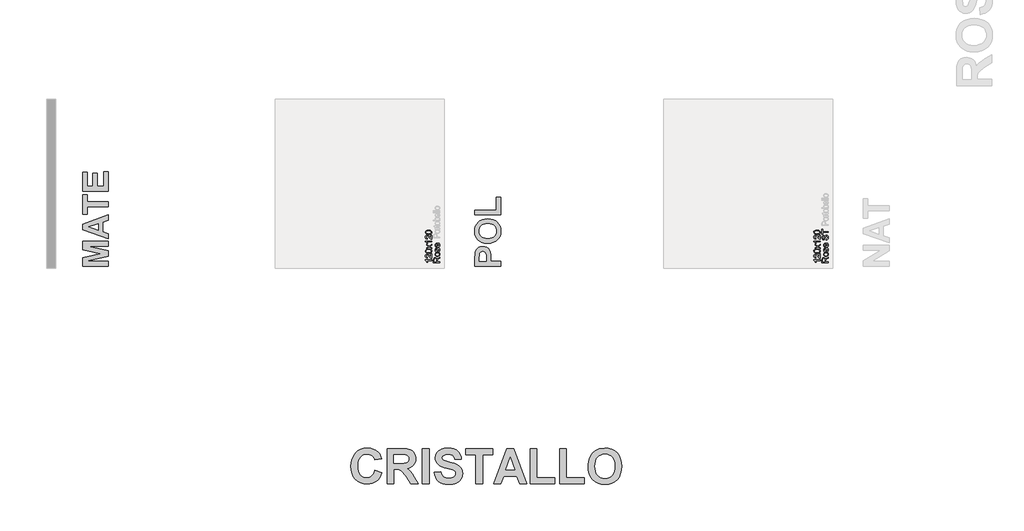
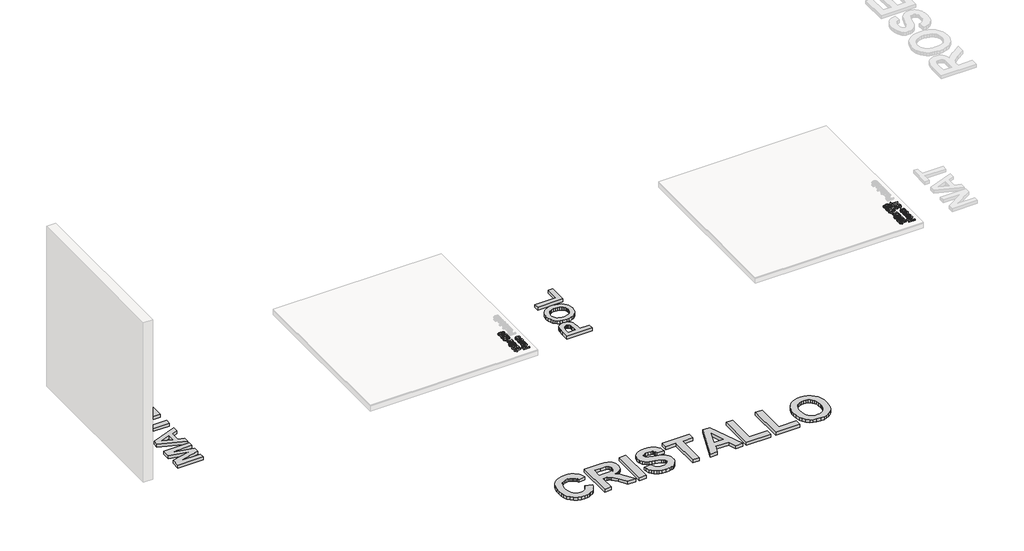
# One storey, part 2 of 14: 7 proxies.
"""IFC4 building model written with IfcOpenShell, lengths in millimetres."""

from ifc_helpers import new_model, si_unit, frame, origin, origin_with_axes, place, context, project, spatial, polyline, outline, extrude, element, save

model = new_model("IFC4")

# Units and contexts
model_context = context("Model", 3, world=origin())
ifc_project = project(units=[si_unit("LENGTHUNIT", "METRE", prefix="MILLI")], contexts=[model_context])

# Site, building, storey
site = spatial("IfcSite", under=ifc_project)
building = spatial("IfcBuilding", under=site)
storey = spatial("IfcBuildingStorey", under=building, Name="PORTOBELLO - SHOWROOM", Elevation=0.0)

# Proxies
placement = place(None, origin())
element("IfcBuildingElementProxy", 1, Name="10mm Arial", ObjectType="10mm Arial", at=placement, inside=storey, context=model_context, shape_type="SweptSolid", body=[
    extrude(outline(polyline([(-10552.2181326, -8570.1378693), (-10652.6744428, -8570.1378693), (-10652.6744428, -8526.8504212), (-10649.9643788, -8506.7518015), (-10640.3749214, -8495.7643926), (-10625.181395, -8491.656377), (-10615.2853694, -8493.3578312), (-10607.0816009, -8498.4621939), (-10601.0667302, -8507.1227492), (-10597.7373982, -8519.4927813), (-10592.3663211, -8512.3558706), (-10579.4414003, -8502.1778021), (-10552.2181326, -8485.4269086), (-10552.2181326, -8500.019561), (-10573.0402536, -8513.0916346), (-10586.8235657, -8522.5339391), (-10593.335077, -8529.1680778), (-10595.7263099, -8535.1400288), (-10596.1677683, -8542.4240923), (-10596.1677683, -8557.5808305), (-10552.2181326, -8557.5808305), (-10552.2181326, -8570.1378693)]), holes=[polyline([(-10608.7248071, -8557.5808305), (-10608.7248071, -8529.4746461), (-10610.5029034, -8515.139511), (-10616.1928116, -8506.9970562), (-10624.7154112, -8504.2134158), (-10635.7763965, -8509.5231792), (-10640.117404, -8526.3108609), (-10640.117404, -8557.5808305), (-10608.7248071, -8557.5808305)])]), frame((0.0, 0.0, 17.0), z_axis=(0.0, 0.0, 1.0), x_axis=(1.0, 0.0, 0.0)), (0.0, 0.0, 1.0), 20.0),
    extrude(outline(polyline([(-10589.104434, -8474.3904487), (-10606.8915285, -8471.6742533), (-10619.393385, -8463.5256671), (-10625.5186202, -8453.4579632), (-10627.5603653, -8441.4036965), (-10625.0740961, -8428.2120613), (-10617.6152887, -8417.6753078), (-10605.7725541, -8410.7683233), (-10590.1345036, -8408.4659952), (-10567.7918038, -8412.5372226), (-10555.1489259, -8424.3952856), (-10550.6485028, -8441.4036965), (-10553.1255749, -8454.7547472), (-10560.5567912, -8465.2792379), (-10572.6478461, -8472.112646), (-10589.104434, -8474.3904487)]), holes=[polyline([(-10589.1289595, -8461.8334099), (-10577.7644715, -8460.380276), (-10569.668002, -8456.0208744), (-10564.8211567, -8449.4603122), (-10563.2055416, -8441.4036965), (-10564.8303537, -8433.383869), (-10569.7047902, -8426.8355695), (-10577.9085586, -8422.4761678), (-10589.521367, -8421.0230339), (-10600.5547611, -8422.4853649), (-10608.5408661, -8426.8723577), (-10613.3877114, -8433.4298542), (-10615.0033265, -8441.4036965), (-10613.3938428, -8449.4603122), (-10608.5653916, -8456.0208744), (-10600.4873161, -8460.380276), (-10589.1289595, -8461.8334099)])]), frame((0.0, 0.0, 17.0), z_axis=(0.0, 0.0, 1.0), x_axis=(1.0, 0.0, 0.0)), (0.0, 0.0, 1.0), 20.0),
    extrude(outline(polyline([(-10574.1929505, -8399.0482161), (-10575.7625803, -8386.4911773), (-10566.4429031, -8380.6786418), (-10563.2055416, -8367.3613136), (-10566.173123, -8354.5590201), (-10573.1383554, -8350.3896909), (-10578.7792127, -8354.5835456), (-10582.3599308, -8367.5084664), (-10588.5035601, -8386.4176009), (-10595.677259, -8394.6704203), (-10605.8062766, -8397.4785862), (-10615.162742, -8395.2222433), (-10622.3119155, -8389.0663513), (-10626.0275236, -8381.083312), (-10627.5603653, -8370.2798441), (-10625.0955559, -8355.0004785), (-10618.424629, -8345.2883939), (-10607.1551773, -8340.9719118), (-10605.5855474, -8353.5289505), (-10612.5139917, -8358.2501028), (-10615.0033265, -8369.2988254), (-10612.6243563, -8381.3163039), (-10607.0816009, -8384.9215475), (-10603.4273064, -8383.425494), (-10600.6559287, -8378.7411299), (-10597.9826528, -8367.9253993), (-10592.0720155, -8349.4945113), (-10585.3765631, -8340.9351236), (-10574.4627306, -8337.8326521), (-10562.4452521, -8341.4746838), (-10553.7264488, -8351.9838462), (-10550.6485028, -8367.5329918), (-10552.1322935, -8380.1942638), (-10556.5836657, -8389.4342333), (-10563.9535683, -8395.6023881), (-10574.1929505, -8399.0482161)])), frame((0.0, 0.0, 17.0), z_axis=(0.0, 0.0, 1.0), x_axis=(1.0, 0.0, 0.0)), (0.0, 0.0, 1.0), 20.0),
    extrude(outline(polyline([(-10574.1929505, -8272.0553513), (-10572.6233206, -8259.7435672), (-10563.346563, -8264.179611), (-10556.4119874, -8271.2582737), (-10552.089374, -8280.8201399), (-10550.6485028, -8292.705794), (-10553.134772, -8307.4394679), (-10560.5935794, -8318.7763647), (-10572.5405472, -8326.0052459), (-10588.4912974, -8328.414873), (-10604.9785421, -8325.9807205), (-10617.3087203, -8318.6782629), (-10624.997454, -8307.4946502), (-10627.5603653, -8293.4170325), (-10625.0035854, -8279.7778076), (-10617.3332458, -8268.8793035), (-10605.0275931, -8261.7331957), (-10588.5648738, -8259.3511598), (-10585.1803594, -8259.4247362), (-10585.1803594, -8315.8578342), (-10575.7809744, -8313.6842648), (-10568.8709243, -8308.6350844), (-10564.6218873, -8301.3479552), (-10563.2055416, -8292.4605393), (-10565.8297665, -8280.1487552), (-10574.1929505, -8272.0553513)]), holes=[polyline([(-10597.7373982, -8315.8578342), (-10597.7373982, -8271.9081985), (-10609.1172146, -8276.9359192), (-10613.5317985, -8284.2567709), (-10615.0033265, -8293.4660835), (-10610.3066997, -8308.92939), (-10604.8160609, -8313.7946294), (-10597.7373982, -8315.8578342)])]), frame((0.0, 0.0, 17.0), z_axis=(0.0, 0.0, 1.0), x_axis=(1.0, 0.0, 0.0)), (0.0, 0.0, 1.0), 20.0),
])
element("IfcBuildingElementProxy", 2, Name="10mm Arial", ObjectType="10mm Arial", at=placement, inside=storey, context=model_context, shape_type="SweptSolid", body=[
    extrude(outline(polyline([(-10682.2181326, -8527.7578635), (-10682.2181326, -8540.3149022), (-10760.5034212, -8540.3149022), (-10752.0298726, -8552.2097534), (-10745.6900395, -8565.4289798), (-10757.5603653, -8565.4289798), (-10769.3080636, -8547.0226173), (-10782.6744428, -8535.8512674), (-10782.6744428, -8527.7578635), (-10682.2181326, -8527.7578635)])), frame((0.0, 0.0, 17.0), z_axis=(0.0, 0.0, 1.0), x_axis=(1.0, 0.0, 0.0)), (0.0, 0.0, 1.0), 20.0),
    extrude(outline(polyline([(-10694.7751714, -8433.5800727), (-10682.2181326, -8433.5800727), (-10682.2181326, -8499.5045262), (-10690.8756223, -8498.1556256), (-10704.2052132, -8490.5159428), (-10718.7610775, -8474.7828562), (-10739.6813003, -8453.1146066), (-10753.9060708, -8447.7067413), (-10765.4207772, -8452.820301), (-10770.117404, -8466.1744175), (-10765.5311418, -8480.0926196), (-10752.8514757, -8485.3778576), (-10754.4211056, -8497.9348964), (-10766.5673428, -8494.8906729), (-10775.4394302, -8488.3086508), (-10780.8656897, -8478.5321868), (-10782.6744428, -8465.9046373), (-10780.6633546, -8453.1851174), (-10774.6300898, -8443.4270474), (-10765.616981, -8437.2190388), (-10754.6663602, -8435.1497025), (-10742.7592463, -8437.38152), (-10730.4474622, -8444.8004735), (-10713.2428476, -8462.7899031), (-10701.1640554, -8477.2354028), (-10694.7751714, -8482.9007855), (-10694.7751714, -8433.5800727)])), frame((0.0, 0.0, 17.0), z_axis=(0.0, 0.0, 1.0), x_axis=(1.0, 0.0, 0.0)), (0.0, 0.0, 1.0), 20.0),
    extrude(outline(polyline([(-10731.6369473, -8421.0230339), (-10760.5402094, -8417.3319512), (-10777.2052638, -8406.3690678), (-10782.6744428, -8388.0608072), (-10779.4370812, -8373.3945783), (-10770.1051413, -8363.2655607), (-10755.2427087, -8357.3794488), (-10731.6369473, -8355.0985804), (-10702.8563126, -8358.7528749), (-10686.15447, -8369.6789701), (-10682.0249946, -8377.9103298), (-10680.6485028, -8388.0608072), (-10683.0397358, -8401.1083553), (-10690.2134347, -8411.0166437), (-10707.2034515, -8418.5214364), (-10731.6369473, -8421.0230339)]), holes=[polyline([(-10731.6614728, -8408.4659952), (-10711.9092753, -8406.9944672), (-10700.4773423, -8402.5798832), (-10695.0234918, -8396.0070583), (-10693.2055416, -8388.0608072), (-10695.0296231, -8380.1145561), (-10700.5018678, -8373.5417311), (-10711.9399322, -8369.1271471), (-10731.6614728, -8367.6556192), (-10750.9691462, -8369.0780962), (-10762.489984, -8373.3455274), (-10768.210549, -8379.9060896), (-10770.117404, -8388.20796), (-10768.4374096, -8396.0683719), (-10763.3974263, -8402.3836795), (-10751.1592185, -8406.9454162), (-10731.6614728, -8408.4659952)])]), frame((0.0, 0.0, 17.0), z_axis=(0.0, 0.0, 1.0), x_axis=(1.0, 0.0, 0.0)), (0.0, 0.0, 1.0), 20.0),
    extrude(outline(polyline([(-10682.2181326, -8348.820061), (-10719.3251632, -8321.9892008), (-10755.9907354, -8347.2504312), (-10755.9907354, -8332.1917948), (-10738.3078742, -8320.0026381), (-10729.9937411, -8314.2882044), (-10736.8118207, -8309.3340602), (-10755.9907354, -8295.4526462), (-10755.9907354, -8280.344959), (-10719.3006378, -8306.8815136), (-10682.2181326, -8281.3259776), (-10682.2181326, -8296.4091394), (-10704.536307, -8311.8111323), (-10708.6320599, -8314.6070355), (-10682.2181326, -8333.7123737), (-10682.2181326, -8348.820061)])), frame((0.0, 0.0, 17.0), z_axis=(0.0, 0.0, 1.0), x_axis=(1.0, 0.0, 0.0)), (0.0, 0.0, 1.0), 20.0),
    extrude(outline(polyline([(-10682.2181326, -8226.388933), (-10682.2181326, -8238.9459718), (-10760.5034212, -8238.9459718), (-10752.0298726, -8250.840823), (-10745.6900395, -8264.0600493), (-10757.5603653, -8264.0600493), (-10769.3080636, -8245.6536868), (-10782.6744428, -8234.4823369), (-10782.6744428, -8226.388933), (-10682.2181326, -8226.388933)])), frame((0.0, 0.0, 17.0), z_axis=(0.0, 0.0, 1.0), x_axis=(1.0, 0.0, 0.0)), (0.0, 0.0, 1.0), 20.0),
    extrude(outline(polyline([(-10694.7751714, -8132.2111422), (-10682.2181326, -8132.2111422), (-10682.2181326, -8198.1355958), (-10690.8756223, -8196.7866951), (-10704.2052132, -8189.1470124), (-10718.7610775, -8173.4139257), (-10739.6813003, -8151.7456762), (-10753.9060708, -8146.3378109), (-10765.4207772, -8151.4513706), (-10770.117404, -8164.805487), (-10765.5311418, -8178.7236892), (-10752.8514757, -8184.0089272), (-10754.4211056, -8196.5659659), (-10766.5673428, -8193.5217424), (-10775.4394302, -8186.9397204), (-10780.8656897, -8177.1632564), (-10782.6744428, -8164.5357069), (-10780.6633546, -8151.8161869), (-10774.6300898, -8142.058117), (-10765.616981, -8135.8501083), (-10754.6663602, -8133.7807721), (-10742.7592463, -8136.0125895), (-10730.4474622, -8143.4315431), (-10713.2428476, -8161.4209727), (-10701.1640554, -8175.8664723), (-10694.7751714, -8181.5318551), (-10694.7751714, -8132.2111422)])), frame((0.0, 0.0, 17.0), z_axis=(0.0, 0.0, 1.0), x_axis=(1.0, 0.0, 0.0)), (0.0, 0.0, 1.0), 20.0),
    extrude(outline(polyline([(-10731.6369473, -8119.6541035), (-10760.5402094, -8115.9630208), (-10777.2052638, -8105.0001373), (-10782.6744428, -8086.6918767), (-10779.4370812, -8072.0256478), (-10770.1051413, -8061.8966302), (-10755.2427087, -8056.0105183), (-10731.6369473, -8053.7296499), (-10702.8563126, -8057.3839444), (-10686.15447, -8068.3100397), (-10682.0249946, -8076.5413993), (-10680.6485028, -8086.6918767), (-10683.0397358, -8099.7394248), (-10690.2134347, -8109.6477132), (-10707.2034515, -8117.1525059), (-10731.6369473, -8119.6541035)]), holes=[polyline([(-10731.6614728, -8107.0970647), (-10711.9092753, -8105.6255367), (-10700.4773423, -8101.2109528), (-10695.0234918, -8094.6381278), (-10693.2055416, -8086.6918767), (-10695.0296231, -8078.7456256), (-10700.5018678, -8072.1728006), (-10711.9399322, -8067.7582167), (-10731.6614728, -8066.2866887), (-10750.9691462, -8067.7091658), (-10762.489984, -8071.9765969), (-10768.210549, -8078.5371592), (-10770.117404, -8086.8390295), (-10768.4374096, -8094.6994415), (-10763.3974263, -8101.0147491), (-10751.1592185, -8105.5764858), (-10731.6614728, -8107.0970647)])]), frame((0.0, 0.0, 17.0), z_axis=(0.0, 0.0, 1.0), x_axis=(1.0, 0.0, 0.0)), (0.0, 0.0, 1.0), 20.0),
])
element("IfcBuildingElementProxy", 3, Name="10mm Arial", ObjectType="10mm Arial", at=placement, inside=storey, context=model_context, shape_type="SweptSolid", body=[
    extrude(outline(polyline([(-4352.1931166, -8570.1378693), (-4452.6494267, -8570.1378693), (-4452.6494267, -8526.8504212), (-4449.9393627, -8506.7518015), (-4440.3499053, -8495.7643926), (-4425.1563789, -8491.656377), (-4415.2603533, -8493.3578312), (-4407.0565848, -8498.4621939), (-4401.0417142, -8507.1227492), (-4397.7123821, -8519.4927813), (-4392.341305, -8512.3558706), (-4379.4163842, -8502.1778021), (-4352.1931166, -8485.4269086), (-4352.1931166, -8500.019561), (-4373.0152375, -8513.0916346), (-4386.7985496, -8522.5339391), (-4393.3100609, -8529.1680778), (-4395.7012939, -8535.1400288), (-4396.1427523, -8542.4240923), (-4396.1427523, -8557.5808305), (-4352.1931166, -8557.5808305), (-4352.1931166, -8570.1378693)]), holes=[polyline([(-4408.699791, -8557.5808305), (-4408.699791, -8529.4746461), (-4410.4778873, -8515.139511), (-4416.1677955, -8506.9970562), (-4424.6903951, -8504.2134158), (-4435.7513804, -8509.5231792), (-4440.0923879, -8526.3108609), (-4440.0923879, -8557.5808305), (-4408.699791, -8557.5808305)])]), frame((0.0, 0.0, 17.0), z_axis=(0.0, 0.0, 1.0), x_axis=(1.0, 0.0, 0.0)), (0.0, 0.0, 1.0), 20.0),
    extrude(outline(polyline([(-4389.0794179, -8474.3904487), (-4406.8665124, -8471.6742533), (-4419.3683689, -8463.5256671), (-4425.4936041, -8453.4579632), (-4427.5353492, -8441.4036965), (-4425.04908, -8428.2120613), (-4417.5902726, -8417.6753078), (-4405.747538, -8410.7683233), (-4390.1094875, -8408.4659952), (-4367.7667877, -8412.5372226), (-4355.1239098, -8424.3952856), (-4350.6234867, -8441.4036965), (-4353.1005588, -8454.7547472), (-4360.5317751, -8465.2792379), (-4372.62283, -8472.112646), (-4389.0794179, -8474.3904487)]), holes=[polyline([(-4389.1039434, -8461.8334099), (-4377.7394554, -8460.380276), (-4369.6429859, -8456.0208744), (-4364.7961406, -8449.4603122), (-4363.1805255, -8441.4036965), (-4364.8053376, -8433.383869), (-4369.6797741, -8426.8355695), (-4377.8835426, -8422.4761678), (-4389.4963509, -8421.0230339), (-4400.529745, -8422.4853649), (-4408.51585, -8426.8723577), (-4413.3626953, -8433.4298542), (-4414.9783104, -8441.4036965), (-4413.3688267, -8449.4603122), (-4408.5403755, -8456.0208744), (-4400.4623, -8460.380276), (-4389.1039434, -8461.8334099)])]), frame((0.0, 0.0, 17.0), z_axis=(0.0, 0.0, 1.0), x_axis=(1.0, 0.0, 0.0)), (0.0, 0.0, 1.0), 20.0),
    extrude(outline(polyline([(-4374.1679344, -8399.0482161), (-4375.7375643, -8386.4911773), (-4366.417887, -8380.6786418), (-4363.1805255, -8367.3613136), (-4366.1481069, -8354.5590201), (-4373.1133394, -8350.3896909), (-4378.7541966, -8354.5835456), (-4382.3349147, -8367.5084664), (-4388.478544, -8386.4176009), (-4395.6522429, -8394.6704203), (-4405.7812605, -8397.4785862), (-4415.1377259, -8395.2222433), (-4422.2868994, -8389.0663513), (-4426.0025075, -8381.083312), (-4427.5353492, -8370.2798441), (-4425.0705398, -8355.0004785), (-4418.399613, -8345.2883939), (-4407.1301612, -8340.9719118), (-4405.5605313, -8353.5289505), (-4412.4889756, -8358.2501028), (-4414.9783104, -8369.2988254), (-4412.5993402, -8381.3163039), (-4407.0565848, -8384.9215475), (-4403.4022903, -8383.425494), (-4400.6309126, -8378.7411299), (-4397.9576368, -8367.9253993), (-4392.0469994, -8349.4945113), (-4385.3515471, -8340.9351236), (-4374.4377145, -8337.8326521), (-4362.420236, -8341.4746838), (-4353.7014327, -8351.9838462), (-4350.6234867, -8367.5329918), (-4352.1072774, -8380.1942638), (-4356.5586496, -8389.4342333), (-4363.9285522, -8395.6023881), (-4374.1679344, -8399.0482161)])), frame((0.0, 0.0, 17.0), z_axis=(0.0, 0.0, 1.0), x_axis=(1.0, 0.0, 0.0)), (0.0, 0.0, 1.0), 20.0),
    extrude(outline(polyline([(-4374.1679344, -8272.0553513), (-4372.5983046, -8259.7435672), (-4363.3215469, -8264.179611), (-4356.3869713, -8271.2582737), (-4352.0643579, -8280.8201399), (-4350.6234867, -8292.705794), (-4353.1097559, -8307.4394679), (-4360.5685633, -8318.7763647), (-4372.5155311, -8326.0052459), (-4388.4662813, -8328.414873), (-4404.953526, -8325.9807205), (-4417.2837042, -8318.6782629), (-4424.9724379, -8307.4946502), (-4427.5353492, -8293.4170325), (-4424.9785693, -8279.7778076), (-4417.3082297, -8268.8793035), (-4405.002577, -8261.7331957), (-4388.5398577, -8259.3511598), (-4385.1553433, -8259.4247362), (-4385.1553433, -8315.8578342), (-4375.7559584, -8313.6842648), (-4368.8459082, -8308.6350844), (-4364.5968712, -8301.3479552), (-4363.1805255, -8292.4605393), (-4365.8047504, -8280.1487552), (-4374.1679344, -8272.0553513)]), holes=[polyline([(-4397.7123821, -8315.8578342), (-4397.7123821, -8271.9081985), (-4409.0921985, -8276.9359192), (-4413.5067824, -8284.2567709), (-4414.9783104, -8293.4660835), (-4410.2816836, -8308.92939), (-4404.7910448, -8313.7946294), (-4397.7123821, -8315.8578342)])]), frame((0.0, 0.0, 17.0), z_axis=(0.0, 0.0, 1.0), x_axis=(1.0, 0.0, 0.0)), (0.0, 0.0, 1.0), 20.0),
    extrude(outline(polyline([(-4386.7249732, -8210.6926346), (-4386.7249732, -8198.1355958), (-4374.1556717, -8194.0888938), (-4366.2094206, -8184.2051309), (-4363.1805255, -8169.1464946), (-4365.4736566, -8156.0253701), (-4371.7767014, -8147.5518214), (-4380.2011991, -8144.768181), (-4388.0370856, -8146.8528457), (-4393.7392566, -8155.3877079), (-4398.5339852, -8173.6714431), (-4404.7266655, -8193.3531298), (-4414.0708682, -8204.0339704), (-4426.5543305, -8207.5533749), (-4440.7668383, -8203.2001046), (-4450.797754, -8190.4836503), (-4454.2190566, -8171.8688213), (-4450.6383385, -8152.0031936), (-4440.1169134, -8138.7594418), (-4424.3960895, -8133.7807721), (-4424.3960895, -8146.3378109), (-4431.8886195, -8148.6432047), (-4437.2964848, -8153.4501961), (-4441.6620178, -8171.378312), (-4437.3455357, -8189.3554788), (-4426.9222125, -8194.9963361), (-4418.215672, -8190.9986851), (-4411.2013886, -8170.4953952), (-4404.8983437, -8148.2753227), (-4394.7202752, -8136.1229541), (-4380.5200302, -8132.2111422), (-4365.4981821, -8136.7115653), (-4354.5352986, -8149.6610116), (-4350.6234867, -8168.6559852), (-4354.8418669, -8191.0845242), (-4367.5460585, -8205.2725065), (-4386.7249732, -8210.6926346)])), frame((0.0, 0.0, 17.0), z_axis=(0.0, 0.0, 1.0), x_axis=(1.0, 0.0, 0.0)), (0.0, 0.0, 1.0), 20.0),
    extrude(outline(polyline([(-4352.1931166, -8088.2615066), (-4440.0923879, -8088.2615066), (-4440.0923879, -8121.2237333), (-4452.6494267, -8121.2237333), (-4452.6494267, -8042.742241), (-4440.0923879, -8042.742241), (-4440.0923879, -8075.7044678), (-4352.1931166, -8075.7044678), (-4352.1931166, -8088.2615066)])), frame((0.0, 0.0, 17.0), z_axis=(0.0, 0.0, 1.0), x_axis=(1.0, 0.0, 0.0)), (0.0, 0.0, 1.0), 20.0),
])
element("IfcBuildingElementProxy", 4, Name="10mm Arial", ObjectType="10mm Arial", at=placement, inside=storey, context=model_context, shape_type="SweptSolid", body=[
    extrude(outline(polyline([(-4482.1931166, -8527.7578635), (-4482.1931166, -8540.3149022), (-4560.4784051, -8540.3149022), (-4552.0048565, -8552.2097534), (-4545.6650235, -8565.4289798), (-4557.5353492, -8565.4289798), (-4569.2830476, -8547.0226173), (-4582.6494267, -8535.8512674), (-4582.6494267, -8527.7578635), (-4482.1931166, -8527.7578635)])), frame((0.0, 0.0, 17.0), z_axis=(0.0, 0.0, 1.0), x_axis=(1.0, 0.0, 0.0)), (0.0, 0.0, 1.0), 20.0),
    extrude(outline(polyline([(-4494.7501553, -8433.5800727), (-4482.1931166, -8433.5800727), (-4482.1931166, -8499.5045262), (-4490.8506062, -8498.1556256), (-4504.1801971, -8490.5159428), (-4518.7360614, -8474.7828562), (-4539.6562842, -8453.1146066), (-4553.8810547, -8447.7067413), (-4565.3957611, -8452.820301), (-4570.0923879, -8466.1744175), (-4565.5061257, -8480.0926196), (-4552.8264596, -8485.3778576), (-4554.3960895, -8497.9348964), (-4566.5423267, -8494.8906729), (-4575.4144141, -8488.3086508), (-4580.8406736, -8478.5321868), (-4582.6494267, -8465.9046373), (-4580.6383385, -8453.1851174), (-4574.6050738, -8443.4270474), (-4565.5919649, -8437.2190388), (-4554.6413441, -8435.1497025), (-4542.7342302, -8437.38152), (-4530.4224461, -8444.8004735), (-4513.2178315, -8462.7899031), (-4501.1390393, -8477.2354028), (-4494.7501553, -8482.9007855), (-4494.7501553, -8433.5800727)])), frame((0.0, 0.0, 17.0), z_axis=(0.0, 0.0, 1.0), x_axis=(1.0, 0.0, 0.0)), (0.0, 0.0, 1.0), 20.0),
    extrude(outline(polyline([(-4531.6119313, -8421.0230339), (-4560.5151933, -8417.3319512), (-4577.1802477, -8406.3690678), (-4582.6494267, -8388.0608072), (-4579.4120652, -8373.3945783), (-4570.0801252, -8363.2655607), (-4555.2176926, -8357.3794488), (-4531.6119313, -8355.0985804), (-4502.8312965, -8358.7528749), (-4486.1294539, -8369.6789701), (-4481.9999785, -8377.9103298), (-4480.6234867, -8388.0608072), (-4483.0147197, -8401.1083553), (-4490.1884186, -8411.0166437), (-4507.1784354, -8418.5214364), (-4531.6119313, -8421.0230339)]), holes=[polyline([(-4531.6364567, -8408.4659952), (-4511.8842593, -8406.9944672), (-4500.4523263, -8402.5798832), (-4494.9984757, -8396.0070583), (-4493.1805255, -8388.0608072), (-4495.004607, -8380.1145561), (-4500.4768517, -8373.5417311), (-4511.9149161, -8369.1271471), (-4531.6364567, -8367.6556192), (-4550.9441301, -8369.0780962), (-4562.4649679, -8373.3455274), (-4568.1855329, -8379.9060896), (-4570.0923879, -8388.20796), (-4568.4123935, -8396.0683719), (-4563.3724102, -8402.3836795), (-4551.1342025, -8406.9454162), (-4531.6364567, -8408.4659952)])]), frame((0.0, 0.0, 17.0), z_axis=(0.0, 0.0, 1.0), x_axis=(1.0, 0.0, 0.0)), (0.0, 0.0, 1.0), 20.0),
    extrude(outline(polyline([(-4482.1931166, -8348.820061), (-4519.3001471, -8321.9892008), (-4555.9657193, -8347.2504312), (-4555.9657193, -8332.1917948), (-4538.2828581, -8320.0026381), (-4529.968725, -8314.2882044), (-4536.7868047, -8309.3340602), (-4555.9657193, -8295.4526462), (-4555.9657193, -8280.344959), (-4519.2756217, -8306.8815136), (-4482.1931166, -8281.3259776), (-4482.1931166, -8296.4091394), (-4504.5112909, -8311.8111323), (-4508.6070438, -8314.6070355), (-4482.1931166, -8333.7123737), (-4482.1931166, -8348.820061)])), frame((0.0, 0.0, 17.0), z_axis=(0.0, 0.0, 1.0), x_axis=(1.0, 0.0, 0.0)), (0.0, 0.0, 1.0), 20.0),
    extrude(outline(polyline([(-4482.1931166, -8226.388933), (-4482.1931166, -8238.9459718), (-4560.4784051, -8238.9459718), (-4552.0048565, -8250.840823), (-4545.6650235, -8264.0600493), (-4557.5353492, -8264.0600493), (-4569.2830476, -8245.6536868), (-4582.6494267, -8234.4823369), (-4582.6494267, -8226.388933), (-4482.1931166, -8226.388933)])), frame((0.0, 0.0, 17.0), z_axis=(0.0, 0.0, 1.0), x_axis=(1.0, 0.0, 0.0)), (0.0, 0.0, 1.0), 20.0),
    extrude(outline(polyline([(-4494.7501553, -8132.2111422), (-4482.1931166, -8132.2111422), (-4482.1931166, -8198.1355958), (-4490.8506062, -8196.7866951), (-4504.1801971, -8189.1470124), (-4518.7360614, -8173.4139257), (-4539.6562842, -8151.7456762), (-4553.8810547, -8146.3378109), (-4565.3957611, -8151.4513706), (-4570.0923879, -8164.805487), (-4565.5061257, -8178.7236892), (-4552.8264596, -8184.0089272), (-4554.3960895, -8196.5659659), (-4566.5423267, -8193.5217424), (-4575.4144141, -8186.9397204), (-4580.8406736, -8177.1632564), (-4582.6494267, -8164.5357069), (-4580.6383385, -8151.8161869), (-4574.6050738, -8142.058117), (-4565.5919649, -8135.8501083), (-4554.6413441, -8133.7807721), (-4542.7342302, -8136.0125895), (-4530.4224461, -8143.4315431), (-4513.2178315, -8161.4209727), (-4501.1390393, -8175.8664723), (-4494.7501553, -8181.5318551), (-4494.7501553, -8132.2111422)])), frame((0.0, 0.0, 17.0), z_axis=(0.0, 0.0, 1.0), x_axis=(1.0, 0.0, 0.0)), (0.0, 0.0, 1.0), 20.0),
    extrude(outline(polyline([(-4531.6119313, -8119.6541035), (-4560.5151933, -8115.9630208), (-4577.1802477, -8105.0001373), (-4582.6494267, -8086.6918767), (-4579.4120652, -8072.0256478), (-4570.0801252, -8061.8966302), (-4555.2176926, -8056.0105183), (-4531.6119313, -8053.7296499), (-4502.8312965, -8057.3839444), (-4486.1294539, -8068.3100397), (-4481.9999785, -8076.5413993), (-4480.6234867, -8086.6918767), (-4483.0147197, -8099.7394248), (-4490.1884186, -8109.6477132), (-4507.1784354, -8117.1525059), (-4531.6119313, -8119.6541035)]), holes=[polyline([(-4531.6364567, -8107.0970647), (-4511.8842593, -8105.6255367), (-4500.4523263, -8101.2109528), (-4494.9984757, -8094.6381278), (-4493.1805255, -8086.6918767), (-4495.004607, -8078.7456256), (-4500.4768517, -8072.1728006), (-4511.9149161, -8067.7582167), (-4531.6364567, -8066.2866887), (-4550.9441301, -8067.7091658), (-4562.4649679, -8071.9765969), (-4568.1855329, -8078.5371592), (-4570.0923879, -8086.8390295), (-4568.4123935, -8094.6994415), (-4563.3724102, -8101.0147491), (-4551.1342025, -8105.5764858), (-4531.6364567, -8107.0970647)])]), frame((0.0, 0.0, 17.0), z_axis=(0.0, 0.0, 1.0), x_axis=(1.0, 0.0, 0.0)), (0.0, 0.0, 1.0), 20.0),
])
element("IfcBuildingElementProxy", 5, Name="400mm Arial", ObjectType="400mm Arial", at=placement, inside=storey, context=model_context, shape_type="SweptSolid", body=[
    extrude(outline(polyline([(-15842.0326912, -8625.7487638), (-16250.1364512, -8625.7487638), (-16250.1364512, -8492.7506635), (-15971.7918728, -8428.1747213), (-16250.1364512, -8363.8012115), (-16250.1364512, -8230.6006788), (-15842.0326912, -8230.6006788), (-15842.0326912, -8308.3347283), (-16163.2929427, -8311.573647), (-15842.0326912, -8382.6274267), (-15842.0326912, -8473.5195835), (-16163.2929427, -8544.7757956), (-15842.0326912, -8548.0147143), (-15842.0326912, -8625.7487638)])), origin_with_axes(), (0.0, 0.0, 1.0), 50.0),
    extrude(outline(polyline([(-15842.0326912, -7809.5412439), (-15842.0326912, -7891.2227256), (-15932.7224156, -7923.207048), (-15932.7224156, -8077.2581201), (-15842.0326912, -8108.8375778), (-15842.0326912, -8191.733654), (-16250.1364512, -8042.9458248), (-16250.1364512, -7959.9485324), (-15842.0326912, -7809.5412439)]), holes=[polyline([(-16003.9786277, -7948.1062358), (-16152.9688893, -8000.6374489), (-16003.9786277, -8052.4601486), (-16003.9786277, -7948.1062358)])]), origin_with_axes(), (0.0, 0.0, 1.0), 50.0),
    extrude(outline(polyline([(-15842.0326912, -7679.9844947), (-16178.8802391, -7679.9844947), (-16178.8802391, -7796.5855689), (-16250.1364512, -7796.5855689), (-16250.1364512, -7485.6493709), (-16178.8802391, -7485.6493709), (-16178.8802391, -7602.2504451), (-15842.0326912, -7602.2504451), (-15842.0326912, -7679.9844947)])), origin_with_axes(), (0.0, 0.0, 1.0), 50.0),
    extrude(outline(polyline([(-15842.0326912, -7433.8266712), (-16250.1364512, -7433.8266712), (-16250.1364512, -7129.3683106), (-16178.8802391, -7129.3683106), (-16178.8802391, -7356.0926217), (-16088.1905147, -7356.0926217), (-16088.1905147, -7142.3239855), (-16016.9343026, -7142.3239855), (-16016.9343026, -7356.0926217), (-15913.2889032, -7356.0926217), (-15913.2889032, -7122.8904731), (-15842.0326912, -7122.8904731), (-15842.0326912, -7433.8266712)])), origin_with_axes(), (0.0, 0.0, 1.0), 50.0),
])
element("IfcBuildingElementProxy", 6, Name="400mm Arial", ObjectType="400mm Arial", at=placement, inside=storey, context=model_context, shape_type="SweptSolid", body=[
    extrude(outline(polyline([(-9582.0076751, -8625.7487638), (-9990.1114351, -8625.7487638), (-9990.1114351, -8494.2689066), (-9988.5931919, -8432.5017143), (-9984.0384625, -8396.7976961), (-9969.5518924, -8364.7248095), (-9944.3110999, -8338.3453346), (-9927.8919328, -8328.0497483), (-9909.2523351, -8320.695758), (-9888.3923067, -8316.2833638), (-9865.3118478, -8314.8125657), (-9830.9362923, -8318.2665689), (-9802.5071893, -8328.6285785), (-9779.78415, -8344.3170911), (-9762.5267862, -8363.7506034), (-9750.4441011, -8385.221092), (-9743.2450981, -8407.0205333), (-9738.9181051, -8443.5848893), (-9737.4757741, -8493.5603932), (-9737.4757741, -8548.0147143), (-9582.0076751, -8548.0147143), (-9582.0076751, -8625.7487638)]), holes=[polyline([(-9918.855223, -8548.0147143), (-9808.7319862, -8548.0147143), (-9808.7319862, -8499.734582), (-9810.2502293, -8456.2495676), (-9814.8049588, -8430.0472212), (-9822.611259, -8414.3840126), (-9833.8842145, -8402.516412), (-9847.9406157, -8395.0390644), (-9864.0972532, -8392.5466153), (-9883.4042453, -8396.0512265), (-9899.0168458, -8406.5650604), (-9910.201237, -8422.4180493), (-9916.2236015, -8441.9401259), (-9918.855223, -8505.4026898), (-9918.855223, -8548.0147143)])]), origin_with_axes(), (0.0, 0.0, 1.0), 50.0),
    extrude(outline(polyline([(-9783.5291498, -8262.9898661), (-9840.7669168, -8258.4098325), (-9887.9842789, -8244.669732), (-9917.4761521, -8228.5130944), (-9943.8050189, -8207.3715585), (-9965.3514196, -8182.6115431), (-9980.4958951, -8155.5994669), (-9992.5659282, -8115.2648071), (-9996.5892725, -8069.1608233), (-9993.1004763, -8027.0928359), (-9982.6340875, -7989.4530577), (-9965.1901063, -7956.2414887), (-9940.7685325, -7927.4581289), (-9910.1348139, -7904.2100306), (-9874.0543979, -7887.6042461), (-9832.5272846, -7877.6407754), (-9785.553474, -7874.3196185), (-9738.8991271, -7877.6154713), (-9697.6218913, -7887.5030299), (-9661.7217667, -7903.9822941), (-9631.1987533, -7927.053264), (-9606.8436027, -7955.6468434), (-9589.4470665, -7988.6939361), (-9579.0091449, -8026.194542), (-9575.5298376, -8068.1486612), (-9578.9933298, -8110.5456013), (-9589.3838064, -8148.3625079), (-9606.7012674, -8181.5993809), (-9630.9457128, -8210.2562205), (-9661.2631308, -8233.3271904), (-9696.7995096, -8249.8064547), (-9737.5548493, -8259.6940132), (-9783.5291498, -8262.9898661)]), holes=[polyline([(-9786.3632037, -8185.2558165), (-9754.0815586, -8183.1903733), (-9725.9624302, -8176.9940434), (-9702.0058184, -8166.6668269), (-9682.2117233, -8152.2087239), (-9666.7129911, -8134.5686362), (-9655.6424681, -8114.6954659), (-9649.0001543, -8092.589213), (-9646.7860497, -8068.2498774), (-9648.9843393, -8043.9358459), (-9655.579208, -8021.9055051), (-9666.5706558, -8002.1588551), (-9681.9586828, -7984.6958958), (-9701.7432889, -7970.4149211), (-9725.9244741, -7960.2142249), (-9754.5022385, -7954.0938072), (-9787.476582, -7952.053668), (-9819.9922896, -7954.0400361), (-9848.105092, -7959.9991405), (-9871.8149893, -7969.9309811), (-9891.1219814, -7983.835558), (-9906.0893285, -8001.0296617), (-9916.7802907, -8020.8300829), (-9923.194868, -8043.2368214), (-9925.3330605, -8068.2498774), (-9923.169564, -8093.2882374), (-9916.6790745, -8115.7708882), (-9905.861592, -8135.6978296), (-9890.7171165, -8153.0690617), (-9871.214018, -8167.1507669), (-9847.3206664, -8177.2091278), (-9819.0370616, -8183.2441444), (-9786.3632037, -8185.2558165)])]), origin_with_axes(), (0.0, 0.0, 1.0), 50.0),
    extrude(outline(polyline([(-9582.0076751, -7809.5412439), (-9990.1114351, -7809.5412439), (-9990.1114351, -7731.8071943), (-9653.2638871, -7731.8071943), (-9653.2638871, -7524.5163956), (-9582.0076751, -7524.5163956), (-9582.0076751, -7809.5412439)])), origin_with_axes(), (0.0, 0.0, 1.0), 50.0),
])
element("IfcBuildingElementProxy", 7, Name="550mm Arial", ObjectType="550mm Arial", at=placement, inside=storey, context=model_context, shape_type="SweptSolid", body=[
    extrude(outline(polyline([(-11586.4717342, -11888.918665), (-11479.5874161, -11924.546771), (-11494.348377, -11966.8073065), (-11513.3019032, -12003.2660971), (-11536.4479945, -12033.9231429), (-11563.7866511, -12058.778444), (-11595.2047953, -12077.988569), (-11630.5893499, -12091.7100869), (-11669.9403146, -12099.9429976), (-11713.2576896, -12102.6873012), (-11766.7781331, -12097.9989347), (-11815.3057707, -12083.9338352), (-11858.8406024, -12060.4920028), (-11897.3826282, -12027.6734373), (-11928.9225483, -11986.7219912), (-11951.4510626, -11938.8815168), (-11964.9681712, -11884.1520141), (-11969.473874, -11822.5334831), (-11964.929029, -11757.5574206), (-11951.2944937, -11700.270627), (-11928.5702684, -11650.6731025), (-11896.7563529, -11608.7648469), (-11857.531513, -11575.4591784), (-11812.5745145, -11551.6694153), (-11761.8853573, -11537.3955573), (-11705.4640414, -11532.6376047), (-11656.1274649, -11536.5605236), (-11611.6619185, -11548.3292803), (-11572.0674023, -11567.9438748), (-11537.3439161, -11595.4043071), (-11519.2776133, -11615.9409181), (-11503.6294291, -11640.5309219), (-11490.3993633, -11669.1743187), (-11479.5874161, -11701.8711084), (-11586.4717342, -11719.6851614), (-11593.2085428, -11700.1097091), (-11602.8418747, -11682.7175221), (-11615.3717299, -11667.5086003), (-11630.7981083, -11654.4829439), (-11648.5817174, -11644.0406731), (-11668.1832645, -11636.5819082), (-11689.6027496, -11632.1066493), (-11712.8401728, -11630.6148963), (-11744.6018986, -11633.3244068), (-11773.2235497, -11641.4529383), (-11798.7051261, -11655.0004908), (-11821.0466276, -11673.9670644), (-11839.2216587, -11698.9963308), (-11852.2038238, -11730.7319618), (-11859.9931229, -11769.1739576), (-11862.5895559, -11814.322318), (-11860.0714073, -11862.1106028), (-11852.5169615, -11902.4879632), (-11839.9262185, -11935.4543992), (-11822.2991782, -11961.0099108), (-11800.6361416, -11980.128704), (-11775.9374094, -11993.7849849), (-11748.2029816, -12001.9787534), (-11717.4328583, -12004.7100096), (-11694.5259693, -12002.9660069), (-11673.263053, -11997.7339986), (-11653.6441094, -11989.0139849), (-11635.6691384, -11976.8059656), (-11619.7295622, -11960.8489928), (-11606.2168027, -11940.8821185), (-11595.1308601, -11916.9053425), (-11586.4717342, -11888.918665)])), origin_with_axes(), (0.0, 0.0, 1.0), 50.0),
    extrude(outline(polyline([(-11390.517151, -12102.6873012), (-11390.517151, -11541.5446312), (-11154.4809486, -11541.5446312), (-11077.5882588, -11545.3370761), (-11025.0507196, -11556.7144107), (-11005.8797368, -11565.7780061), (-10988.7267522, -11577.7990125), (-10973.5917657, -11592.7774302), (-10960.4747775, -11610.7132589), (-10949.8802869, -11630.832353), (-10942.3127937, -11652.3605665), (-10937.7722978, -11675.2978994), (-10936.2587991, -11699.6443517), (-10938.4464136, -11729.992609), (-10945.0092568, -11757.5748171), (-10955.9473289, -11782.3909759), (-10971.2606299, -11804.4410855), (-10990.9317631, -11823.1945514), (-11014.9433321, -11838.1207795), (-11043.2953369, -11849.2197695), (-11075.9877775, -11856.4915216), (-11044.9871501, -11878.828674), (-11019.9013449, -11903.2534108), (-10993.945713, -11938.6379653), (-10960.3356052, -11993.8545711), (-10891.7236666, -12102.6873012), (-11016.56121, -12102.6873012), (-11097.8378269, -11974.5096229), (-11161.6483215, -11898.4519668), (-11179.3579953, -11885.2479959), (-11198.1114612, -11876.9498481), (-11223.0059045, -11872.565921), (-11259.13851, -11871.104612), (-11283.6328329, -11871.104612), (-11283.6328329, -12102.6873012), (-11390.517151, -12102.6873012)]), holes=[polyline([(-11283.6328329, -11773.1273204), (-11195.5367739, -11773.1273204), (-11126.0028189, -11771.5094426), (-11088.5828697, -11766.655809), (-11069.5510591, -11757.8531617), (-11055.1815202, -11744.3882427), (-11046.152718, -11726.6263793), (-11043.1431172, -11704.9328987), (-11047.1095275, -11680.9082823), (-11059.0087582, -11661.9982475), (-11078.144948, -11648.6551043), (-11103.8222353, -11641.3311626), (-11190.6657438, -11639.5219228), (-11283.6328329, -11639.5219228), (-11283.6328329, -11773.1273204)])]), origin_with_axes(), (0.0, 0.0, 1.0), 50.0),
    extrude(outline(polyline([(-10829.3744811, -12102.6873012), (-10829.3744811, -11541.5446312), (-10722.490163, -11541.5446312), (-10722.490163, -12102.6873012), (-10829.3744811, -12102.6873012)])), origin_with_axes(), (0.0, 0.0, 1.0), 50.0),
    extrude(outline(polyline([(-10642.3269244, -11915.6397445), (-10535.4426063, -11906.732718), (-10528.9710949, -11932.462195), (-10519.8553099, -11954.5383994), (-10508.0952515, -11972.9613311), (-10493.6909195, -11987.7309903), (-10476.5988228, -11999.0561354), (-10456.7754698, -12007.1455247), (-10434.2208607, -12011.9991583), (-10408.9349954, -12013.6170361), (-10382.3617865, -12012.186171), (-10359.2852813, -12007.8935757), (-10339.7054798, -12000.7392502), (-10323.6223822, -11990.7231945), (-10311.0794796, -11978.7935199), (-10302.1202635, -11965.8983375), (-10296.7447338, -11952.0376473), (-10294.9528906, -11937.2114494), (-10297.9276983, -11919.0320691), (-10306.8521213, -11903.7405138), (-10323.2222618, -11890.8148875), (-10348.5342219, -11879.7332939), (-10441.2229665, -11855.9348325), (-10484.2446004, -11844.3226446), (-10520.3424129, -11831.3361304), (-10549.516404, -11816.9752898), (-10571.7665738, -11801.2401228), (-10594.843079, -11776.876274), (-10611.326297, -11749.9899273), (-10621.2162278, -11720.581083), (-10624.5128714, -11688.6497409), (-10618.4588768, -11647.315571), (-10600.2968931, -11608.7648469), (-10586.8493706, -11591.2900263), (-10570.7227816, -11576.0245659), (-10551.917126, -11562.9684655), (-10530.4324039, -11552.1217252), (-10480.0868283, -11537.5086348), (-10420.3471232, -11532.6376047), (-10370.9279131, -11535.6733003), (-10328.0237058, -11544.7803869), (-10291.6345013, -11559.9588647), (-10261.7602996, -11581.2087336), (-10238.3054198, -11607.5209946), (-10221.1741808, -11637.8866484), (-10210.3665827, -11672.3056952), (-10205.8826255, -11710.7781349), (-10312.7669436, -11710.7781349), (-10324.5791917, -11674.0540471), (-10333.708024, -11660.1933569), (-10344.9853286, -11649.3335692), (-10358.8808118, -11641.1441498), (-10375.8641802, -11635.2945645), (-10419.0945725, -11630.6148963), (-10464.6039111, -11635.5903056), (-10483.1834117, -11641.8095673), (-10498.9794665, -11650.5165336), (-10512.9662816, -11665.4775547), (-10517.6285533, -11684.7529168), (-10513.3837985, -11702.9496936), (-10500.649534, -11718.2934385), (-10486.014698, -11727.2048141), (-10463.6818947, -11736.2640603), (-10395.9223864, -11754.8261644), (-10323.6049856, -11774.1363195), (-10272.9636689, -11794.3510945), (-10237.4747352, -11818.8280209), (-10210.6144834, -11850.9246301), (-10200.7506474, -11869.9303458), (-10193.7050502, -11891.0410424), (-10188.0685725, -11939.5773783), (-10189.7342908, -11963.1322882), (-10194.7314459, -11985.9217506), (-10203.0600375, -12007.9457653), (-10214.7200659, -12029.2043325), (-10229.4288372, -12048.7406426), (-10246.9036578, -12065.5978861), (-10267.1445276, -12079.7760631), (-10290.1514466, -12091.2751735), (-10316.0418415, -12100.1648035), (-10344.933139, -12106.5145391), (-10411.7184412, -12111.5943277), (-10461.6638965, -12108.4673003), (-10505.450978, -12099.0862182), (-10543.0796857, -12083.4510813), (-10574.5500196, -12061.5618897), (-10600.0794364, -12033.6795914), (-10619.8853928, -12000.0651345), (-10633.9678888, -11960.7185188), (-10642.3269244, -11915.6397445)])), origin_with_axes(), (0.0, 0.0, 1.0), 50.0),
    extrude(outline(polyline([(-9974.2999363, -12102.6873012), (-9974.2999363, -11639.5219228), (-10134.6264135, -11639.5219228), (-10134.6264135, -11541.5446312), (-9707.0891411, -11541.5446312), (-9707.0891411, -11639.5219228), (-9867.4156182, -11639.5219228), (-9867.4156182, -12102.6873012), (-9974.2999363, -12102.6873012)])), origin_with_axes(), (0.0, 0.0, 1.0), 50.0),
    extrude(outline(polyline([(-9163.7605241, -12102.6873012), (-9276.0725615, -12102.6873012), (-9320.0510049, -11977.9889301), (-9531.871229, -11977.9889301), (-9575.2929832, -12102.6873012), (-9689.2750881, -12102.6873012), (-9484.691823, -11541.5446312), (-9370.5705459, -11541.5446312), (-9163.7605241, -12102.6873012)]), holes=[polyline([(-9354.287388, -11880.0116385), (-9426.5178061, -11675.1500288), (-9497.7740182, -11880.0116385), (-9354.287388, -11880.0116385)])]), origin_with_axes(), (0.0, 0.0, 1.0), 50.0),
    extrude(outline(polyline([(-9110.3183651, -12102.6873012), (-9110.3183651, -11541.5446312), (-9003.434047, -11541.5446312), (-9003.434047, -12004.7100096), (-8718.4091988, -12004.7100096), (-8718.4091988, -12102.6873012), (-9110.3183651, -12102.6873012)])), origin_with_axes(), (0.0, 0.0, 1.0), 50.0),
    extrude(outline(polyline([(-8638.2459602, -12102.6873012), (-8638.2459602, -11541.5446312), (-8531.3616421, -11541.5446312), (-8531.3616421, -12004.7100096), (-8246.3367939, -12004.7100096), (-8246.3367939, -12102.6873012), (-8638.2459602, -12102.6873012)])), origin_with_axes(), (0.0, 0.0, 1.0), 50.0),
    extrude(outline(polyline([(-8183.9876083, -11825.5952734), (-8182.4132218, -11784.5220516), (-8177.6900622, -11746.8933439), (-8169.8181296, -11712.7091504), (-8158.797424, -11681.969471), (-8136.5820473, -11641.4181452), (-8107.5124354, -11605.2159535), (-8073.4674142, -11575.5896525), (-8036.3258095, -11554.7659987), (-8009.5873334, -11545.0848263), (-7980.8656522, -11538.1697032), (-7917.4726745, -11532.6376047), (-7859.6291918, -11537.4346996), (-7807.8744968, -11551.8259841), (-7762.2085894, -11575.8114583), (-7722.6314697, -11609.3911222), (-7690.6653345, -11651.5124853), (-7667.8323808, -11701.1230573), (-7654.1326086, -11758.2228381), (-7649.5660179, -11822.8118277), (-7654.0978155, -11886.9615547), (-7667.6932085, -11943.7177539), (-7690.3521969, -11993.0804252), (-7722.0747805, -12035.0495687), (-7761.3909522, -12068.5379007), (-7806.8307046, -12092.4581379), (-7858.3940378, -12106.8102803), (-7916.0809516, -12111.5943277), (-7974.3767443, -12106.8320259), (-8026.3749908, -12092.5451206), (-8072.0756913, -12068.7336118), (-8111.4788456, -12035.3974994), (-8143.2014293, -11993.7110496), (-8165.8604176, -11944.8485287), (-8179.4558106, -11888.8099367), (-8183.9876083, -11825.5952734)]), holes=[polyline([(-8077.1032902, -11821.6984493), (-8074.2633057, -11866.0857113), (-8065.7433521, -11904.7495129), (-8051.5434295, -11937.6898541), (-8031.6635378, -11964.9067349), (-8007.4084173, -11986.2174917), (-7980.0828081, -12001.4394608), (-7949.6867103, -12010.5726423), (-7916.2201239, -12013.6170361), (-7882.7883306, -12010.594388), (-7852.496612, -12001.5264435), (-7825.3449682, -11986.4132027), (-7801.3333992, -11965.2546656), (-7781.697059, -11938.0508322), (-7767.6711018, -11904.8017025), (-7759.2555274, -11865.5072765), (-7756.4503359, -11820.1675542), (-7759.1815921, -11775.4584563), (-7767.3753606, -11736.8033529), (-7781.0316415, -11704.2022442), (-7800.1504347, -11677.65513), (-7823.7923274, -11657.0750278), (-7851.0179064, -11642.3749547), (-7881.827172, -11633.5549109), (-7916.2201239, -11630.6148963), (-7950.647869, -11633.589704), (-7981.5615137, -11642.514127), (-8008.9610581, -11657.3881654), (-8032.8465023, -11678.2118192), (-8052.208847, -11705.0285797), (-8066.0390932, -11737.8819382), (-8074.337241, -11776.7718947), (-8077.1032902, -11821.6984493)])]), origin_with_axes(), (0.0, 0.0, 1.0), 50.0),
])

save(model, "model.ifc")
